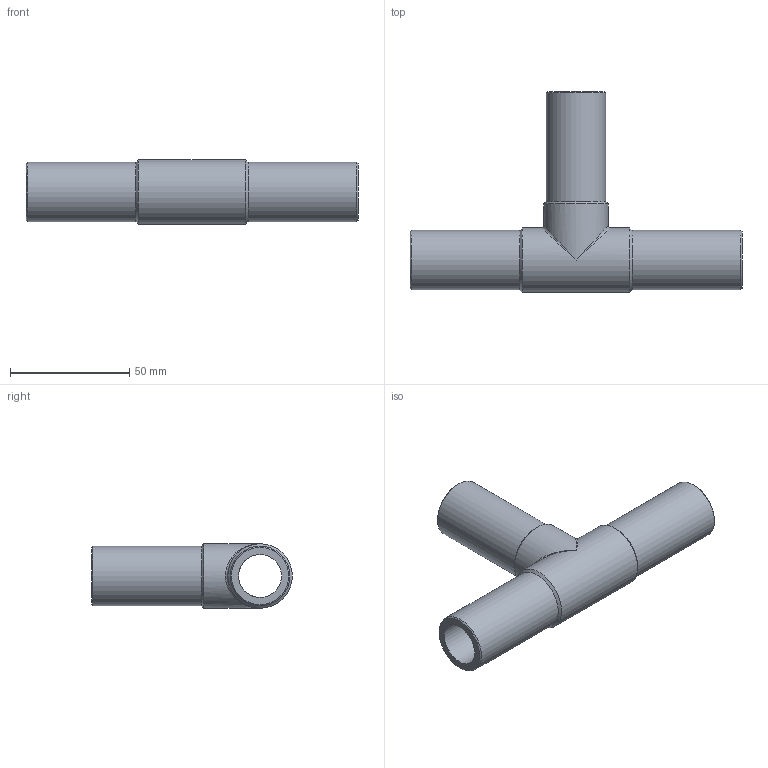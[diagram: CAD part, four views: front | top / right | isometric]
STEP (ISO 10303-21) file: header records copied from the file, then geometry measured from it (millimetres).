
FILE_DESCRIPTION(/* description */ ('Unknown'),/* implementation_level */ '2;1');
FILE_NAME(/* name */ 'TP025H',/* time_stamp */ '2021-08-12T16:24:47+02:00',/* author */ ('Unknown'),/* organization */ ('Unknown'),/* preprocessor_version */ 'ST-DEVELOPER v16.7',/* originating_system */ 'Solid Edge',/* authorisation */ 'Unknown');
FILE_SCHEMA (('AUTOMOTIVE_DESIGN {1 0 10303 214 3 1 1}'));
Length unit declared in the file: millimetre
Products named in the file (1): TP025H
Bounding box: 139 x 84 x 27 mm (x, y, z)
Volume: 50604.1 mm3; surface area: 27361.6 mm2
Topology: 1 solids, 1 shells, 18 faces, 44 edges, 23 vertices
Faces by surface type: cylinder 7, cone 6, plane 3, bspline 2
Full cylindrical faces by diameter (mm): 18 x2, 25 x3, 27 x2
Entity records: 480 total; most frequent: CARTESIAN_POINT 123, DIRECTION 76, ORIENTED_EDGE 42, AXIS2_PLACEMENT_3D 38, EDGE_LOOP 36, FACE_BOUND 36, EDGE_CURVE 21, VERTEX_POINT 19
